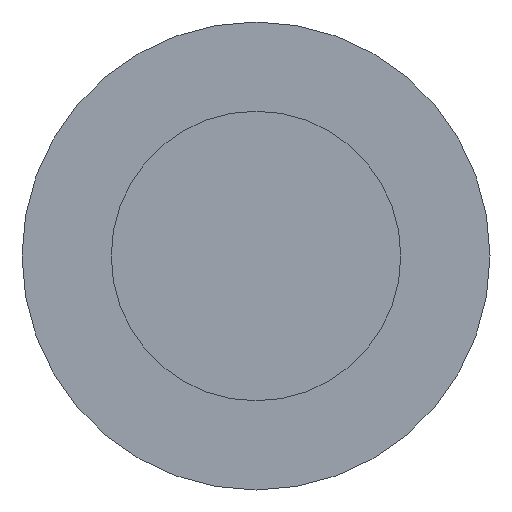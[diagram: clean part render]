
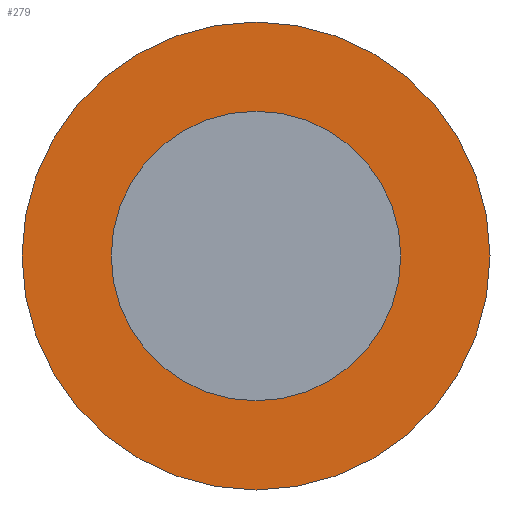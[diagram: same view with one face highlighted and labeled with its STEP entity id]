
A CAD part, front view. The second image highlights one B-rep face of the part: STEP entity #279.
In plain terms, the highlighted planar face has unit normal (0, -1, 0).
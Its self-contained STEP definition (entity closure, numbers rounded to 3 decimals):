
#31 = CYLINDRICAL_SURFACE('',#32,1.6);
#32 = AXIS2_PLACEMENT_3D('',#33,#34,#35);
#33 = CARTESIAN_POINT('',(0.,0.,0.));
#34 = DIRECTION('',(0.,1.,0.));
#35 = DIRECTION('',(0.,-0.,1.));
#56 = VERTEX_POINT('',#57);
#57 = CARTESIAN_POINT('',(0.,0.,1.6));
#78 = EDGE_CURVE('',#56,#56,#79,.T.);
#79 = SURFACE_CURVE('',#80,(#85,#92),.PCURVE_S1.);
#80 = CIRCLE('',#81,1.6);
#81 = AXIS2_PLACEMENT_3D('',#82,#83,#84);
#82 = CARTESIAN_POINT('',(0.,0.,0.));
#83 = DIRECTION('',(0.,1.,0.));
#84 = DIRECTION('',(0.,-0.,1.));
#85 = PCURVE('',#31,#86);
#86 = DEFINITIONAL_REPRESENTATION('',(#87),#91);
#87 = LINE('',#88,#89);
#88 = CARTESIAN_POINT('',(0.,0.));
#89 = VECTOR('',#90,1.);
#90 = DIRECTION('',(1.,0.));
#91 = ( GEOMETRIC_REPRESENTATION_CONTEXT(2) 
PARAMETRIC_REPRESENTATION_CONTEXT() REPRESENTATION_CONTEXT('2D SPACE',''
  ) );
#92 = PCURVE('',#93,#98);
#93 = PLANE('',#94);
#94 = AXIS2_PLACEMENT_3D('',#95,#96,#97);
#95 = CARTESIAN_POINT('',(0.,0.,0.));
#96 = DIRECTION('',(0.,1.,0.));
#97 = DIRECTION('',(0.,-0.,1.));
#98 = DEFINITIONAL_REPRESENTATION('',(#99),#103);
#99 = CIRCLE('',#100,1.6);
#100 = AXIS2_PLACEMENT_2D('',#101,#102);
#101 = CARTESIAN_POINT('',(0.,0.));
#102 = DIRECTION('',(1.,0.));
#103 = ( GEOMETRIC_REPRESENTATION_CONTEXT(2) 
PARAMETRIC_REPRESENTATION_CONTEXT() REPRESENTATION_CONTEXT('2D SPACE',''
  ) );
#279 = ADVANCED_FACE('',(#280,#283),#93,.F.);
#280 = FACE_BOUND('',#281,.F.);
#281 = EDGE_LOOP('',(#282));
#282 = ORIENTED_EDGE('',*,*,#78,.T.);
#283 = FACE_BOUND('',#284,.F.);
#284 = EDGE_LOOP('',(#285));
#285 = ORIENTED_EDGE('',*,*,#286,.F.);
#286 = EDGE_CURVE('',#287,#287,#289,.T.);
#287 = VERTEX_POINT('',#288);
#288 = CARTESIAN_POINT('',(0.,0.,0.99));
#289 = SURFACE_CURVE('',#290,(#295,#302),.PCURVE_S1.);
#290 = CIRCLE('',#291,0.99);
#291 = AXIS2_PLACEMENT_3D('',#292,#293,#294);
#292 = CARTESIAN_POINT('',(0.,0.,0.));
#293 = DIRECTION('',(0.,1.,0.));
#294 = DIRECTION('',(0.,-0.,1.));
#295 = PCURVE('',#93,#296);
#296 = DEFINITIONAL_REPRESENTATION('',(#297),#301);
#297 = CIRCLE('',#298,0.99);
#298 = AXIS2_PLACEMENT_2D('',#299,#300);
#299 = CARTESIAN_POINT('',(0.,0.));
#300 = DIRECTION('',(1.,0.));
#301 = ( GEOMETRIC_REPRESENTATION_CONTEXT(2) 
PARAMETRIC_REPRESENTATION_CONTEXT() REPRESENTATION_CONTEXT('2D SPACE',''
  ) );
#302 = PCURVE('',#303,#308);
#303 = CYLINDRICAL_SURFACE('',#304,0.99);
#304 = AXIS2_PLACEMENT_3D('',#305,#306,#307);
#305 = CARTESIAN_POINT('',(0.,-22.,0.));
#306 = DIRECTION('',(0.,1.,0.));
#307 = DIRECTION('',(0.,-0.,1.));
#308 = DEFINITIONAL_REPRESENTATION('',(#309),#313);
#309 = LINE('',#310,#311);
#310 = CARTESIAN_POINT('',(0.,22.));
#311 = VECTOR('',#312,1.);
#312 = DIRECTION('',(1.,0.));
#313 = ( GEOMETRIC_REPRESENTATION_CONTEXT(2) 
PARAMETRIC_REPRESENTATION_CONTEXT() REPRESENTATION_CONTEXT('2D SPACE',''
  ) );
